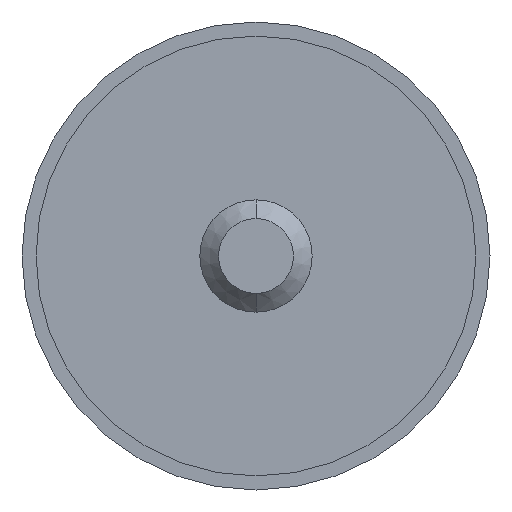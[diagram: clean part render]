
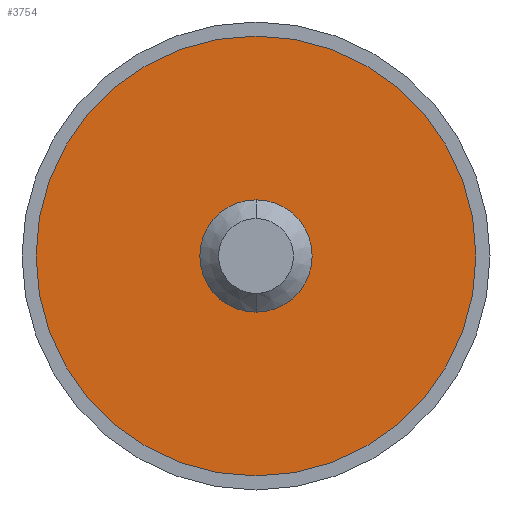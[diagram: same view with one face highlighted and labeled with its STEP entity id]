
A CAD part, front view. The second image highlights one B-rep face of the part: STEP entity #3754.
In plain terms, the highlighted planar face has unit normal (0, -1, 0).
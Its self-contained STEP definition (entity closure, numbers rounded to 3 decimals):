
#10 = CARTESIAN_POINT ( 'NONE',  ( 0., -1., 11.75 ) ) ;
#230 = EDGE_LOOP ( 'NONE', ( #1937, #3662 ) ) ;
#268 = EDGE_CURVE ( 'NONE', #3089, #1568, #487, .T. ) ;
#331 = VERTEX_POINT ( 'NONE', #10 ) ;
#429 = DIRECTION ( 'NONE',  ( 0., 0., 1. ) ) ;
#469 = AXIS2_PLACEMENT_3D ( 'NONE', #4225, #3903, #587 ) ;
#470 = CARTESIAN_POINT ( 'NONE',  ( 0., -1., 0. ) ) ;
#486 = CARTESIAN_POINT ( 'NONE',  ( 0., -1., -11.75 ) ) ;
#487 = CIRCLE ( 'NONE', #2268, 3. ) ;
#553 = AXIS2_PLACEMENT_3D ( 'NONE', #4123, #1063, #429 ) ;
#587 = DIRECTION ( 'NONE',  ( 0., 0., 1. ) ) ;
#626 = CARTESIAN_POINT ( 'NONE',  ( 0., -1., 3. ) ) ;
#891 = CARTESIAN_POINT ( 'NONE',  ( 0., -1., 0. ) ) ;
#995 = CIRCLE ( 'NONE', #553, 11.75 ) ;
#1055 = CIRCLE ( 'NONE', #1958, 11.75 ) ;
#1063 = DIRECTION ( 'NONE',  ( 0., 1., 0. ) ) ;
#1167 = VERTEX_POINT ( 'NONE', #486 ) ;
#1279 = DIRECTION ( 'NONE',  ( 0., -1., 0. ) ) ;
#1289 = ORIENTED_EDGE ( 'NONE', *, *, #268, .F. ) ;
#1486 = CIRCLE ( 'NONE', #4247, 3. ) ;
#1568 = VERTEX_POINT ( 'NONE', #2319 ) ;
#1581 = EDGE_CURVE ( 'NONE', #331, #1167, #1055, .T. ) ;
#1595 = DIRECTION ( 'NONE',  ( 0., 0., -1. ) ) ;
#1625 = CARTESIAN_POINT ( 'NONE',  ( 0., -1., 0. ) ) ;
#1643 = EDGE_CURVE ( 'NONE', #1167, #331, #995, .T. ) ;
#1800 = FACE_OUTER_BOUND ( 'NONE', #230, .T. ) ;
#1937 = ORIENTED_EDGE ( 'NONE', *, *, #1581, .F. ) ;
#1958 = AXIS2_PLACEMENT_3D ( 'NONE', #470, #2386, #2716 ) ;
#2268 = AXIS2_PLACEMENT_3D ( 'NONE', #1625, #3658, #2981 ) ;
#2319 = CARTESIAN_POINT ( 'NONE',  ( 0., -1., -3. ) ) ;
#2386 = DIRECTION ( 'NONE',  ( 0., 1., 0. ) ) ;
#2465 = FACE_BOUND ( 'NONE', #2536, .T. ) ;
#2536 = EDGE_LOOP ( 'NONE', ( #1289, #3839 ) ) ;
#2716 = DIRECTION ( 'NONE',  ( 0., 0., 1. ) ) ;
#2895 = EDGE_CURVE ( 'NONE', #1568, #3089, #1486, .T. ) ;
#2981 = DIRECTION ( 'NONE',  ( 0., 0., -1. ) ) ;
#3089 = VERTEX_POINT ( 'NONE', #626 ) ;
#3519 = PLANE ( 'NONE',  #469 ) ;
#3658 = DIRECTION ( 'NONE',  ( 0., -1., 0. ) ) ;
#3662 = ORIENTED_EDGE ( 'NONE', *, *, #1643, .F. ) ;
#3754 = ADVANCED_FACE ( 'NONE', ( #2465, #1800 ), #3519, .F. ) ;
#3839 = ORIENTED_EDGE ( 'NONE', *, *, #2895, .F. ) ;
#3903 = DIRECTION ( 'NONE',  ( 0., 1., 0. ) ) ;
#4123 = CARTESIAN_POINT ( 'NONE',  ( 0., -1., 0. ) ) ;
#4225 = CARTESIAN_POINT ( 'NONE',  ( 0., -1., 0. ) ) ;
#4247 = AXIS2_PLACEMENT_3D ( 'NONE', #891, #1279, #1595 ) ;
